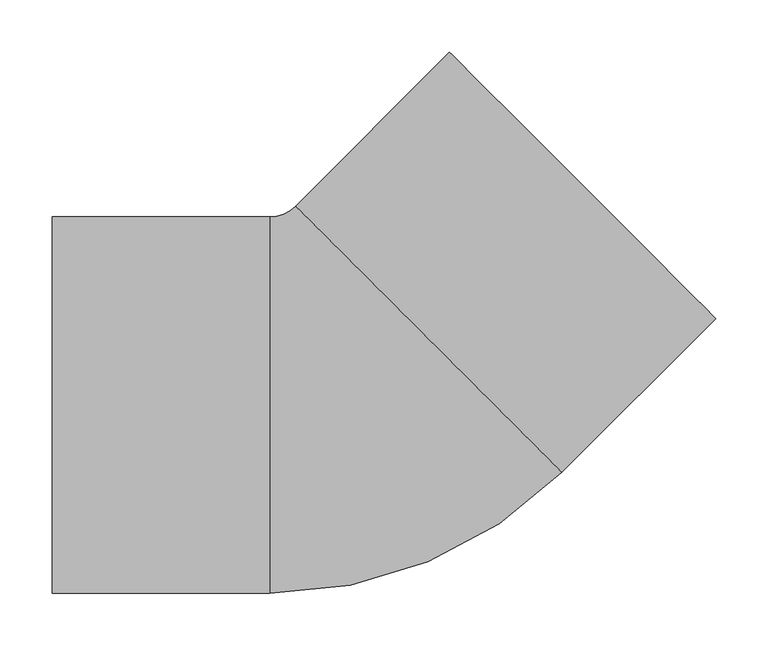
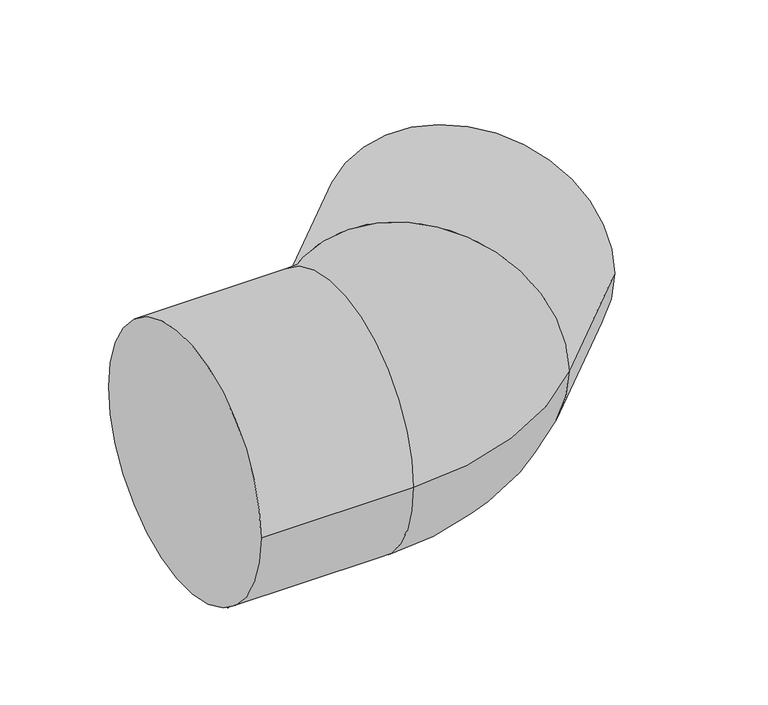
"""IFC4 building model written with IfcOpenShell, lengths in millimetres: pipe fitting geometry, 01051067 : Codos 45º."""

from ifc_helpers import new_model, si_unit, point, frame, origin, place, context, project, spatial, circle_curve, ellipse_curve, trimmed, source, transform, mapped, element, save
from ifc_brep_helpers import plane_surface, cylinder_surface, revolved_surface, advanced_brep


def pipe_fitting_b8e220ee(model_context):
    return source(origin(), model_context, "Body", "AdvancedBrep", [
        advanced_brep(
        [(-297.0, -180.0, 0.0), (-297.0, 180.0, 0.0), (-89.0, -180.0, 0.0), (-89.0, 180.0, 0.0), (-64.3467171, 190.2117241, 0.0), (190.2117241, -64.3467171, 0.0), (337.2899346, 82.7314934, 0.0), (82.7314934, 337.2899346, 0.0)],
        [
            (0, 1, circle_curve(frame((-297.0, 0.0, 0.0), z_axis=(-1.0, 0.0, 0.0), x_axis=(0.0, 1.0, 0.0)), 180.0)),
            (1, 0, circle_curve(frame((-297.0, 0.0, 0.0), z_axis=(-1.0, 0.0, 0.0), x_axis=(0.0, 1.0, 0.0)), 180.0)),
            (0, 2),
            (2, 3, circle_curve(frame((-89.0, 0.0, 0.0), z_axis=(-1.0, 0.0, 0.0), x_axis=(0.0, 1.0, 0.0)), 180.0)),
            (3, 1),
            (3, 2, circle_curve(frame((-89.0, 0.0, 0.0), z_axis=(-1.0, 0.0, 0.0), x_axis=(0.0, 1.0, 0.0)), 180.0)),
            (4, 3, circle_curve(frame((-89.0, 214.8650071, 0.0), z_axis=(0.0, 0.0, -1.0), x_axis=(0.0, -1.0, 0.0)), 34.8650071)),
            (2, 5, circle_curve(frame((-89.0, 214.8650071, 0.0), z_axis=(0.0, 0.0, 1.0), x_axis=(0.0, -1.0, 0.0)), 394.8650071)),
            (5, 4, circle_curve(frame((62.9325035, 62.9325035, 0.0), z_axis=(-0.7071067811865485, -0.7071067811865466, 0.0), x_axis=(-0.7071067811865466, 0.7071067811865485, 0.0)), 180.0)),
            (4, 5, circle_curve(frame((62.9325035, 62.9325035, 0.0), z_axis=(-0.7071067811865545, -0.7071067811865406, 0.0), x_axis=(-0.7071067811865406, 0.7071067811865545, 0.0)), 180.0)),
            (6, 7, circle_curve(frame((210.010714, 210.010714, 0.0), z_axis=(0.7071067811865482, 0.7071067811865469, 0.0), x_axis=(-0.7071067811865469, 0.7071067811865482, 0.0)), 180.0)),
            (7, 6, circle_curve(frame((210.010714, 210.010714, 0.0), z_axis=(0.7071067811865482, 0.7071067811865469, 0.0), x_axis=(-0.7071067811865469, 0.7071067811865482, 0.0)), 180.0)),
            (5, 6),
            (7, 4),
        ],
        [
            plane_surface(frame((-297.0, 0.0, 0.0), z_axis=(-1.0, 0.0, 0.0), x_axis=(0.0, 0.0, 1.0))),
            cylinder_surface(frame((-297.0, 0.0, 0.0), z_axis=(-1.0, 0.0, 0.0), x_axis=(0.0, 1.0, 0.0)), 180.0),
            revolved_surface(trimmed(ellipse_curve(frame((-89.0, 0.0, 0.0), z_axis=(-1.0, 0.0, 0.0), x_axis=(0.0, 1.0, 0.0)), 180.0, 180.0), [point((-89.0, -180.0, 0.0))], [point((-89.0, 180.0, 0.0))], True, "CARTESIAN"), (-89.0, 214.8650071, 0.0), (0.0, 0.0, 1.0)),
            revolved_surface(trimmed(ellipse_curve(frame((-89.0, 0.0, 0.0), z_axis=(-1.0, 0.0, 0.0), x_axis=(0.0, 1.0, 0.0)), 180.0, 180.0), [point((-89.0, 180.0, 0.0))], [point((-89.0, -180.0, 0.0))], True, "CARTESIAN"), (-89.0, 214.8650071, 0.0), (0.0, 0.0, 1.0)),
            plane_surface(frame((210.010714, 210.010714, 0.0), z_axis=(0.7071067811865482, 0.7071067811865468, 0.0), x_axis=(0.0, 0.0, 1.0))),
            cylinder_surface(frame((62.9325035, 62.9325035, 0.0), z_axis=(-0.7071067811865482, -0.7071067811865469, 0.0), x_axis=(-0.7071067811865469, 0.7071067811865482, 0.0)), 180.0),
        ],
        [
            (0, [[1, 2]]),
            (1, [[-1, 3, 4, 5]]),
            (1, [[-2, -5, 6, -3]]),
            (2, [[7, -4, 8, 9]]),
            (3, [[-8, -6, -7, 10]]),
            (4, [[11, 12]]),
            (5, [[-9, 13, -12, 14]]),
            (5, [[-10, -14, -11, -13]]),
        ],
    ),
    ])


if __name__ == "__main__":
    model = new_model("IFC4")
    model_context = context("Model", 3, world=origin())
    ifc_project = project(units=[si_unit("LENGTHUNIT", "METRE", prefix="MILLI")], contexts=[model_context])
    site = spatial("IfcSite", under=ifc_project)
    building = spatial("IfcBuilding", under=site)
    placement = place(None, origin())
    pipe_fitting_shape = pipe_fitting_b8e220ee(model_context)
    element("IfcPipeFitting", 1, ObjectType="01051067 : Codos 45º", at=placement, inside=building, context=model_context, shape_type="MappedRepresentation", body=[
        mapped(pipe_fitting_shape, transform((0.0, 0.0, 0.0), x_axis=(1.0, 0.0, 0.0), y_axis=(0.0, 1.0, 0.0), z_axis=(0.0, 0.0, 1.0))),
    ])
    save(model, "model.ifc")
